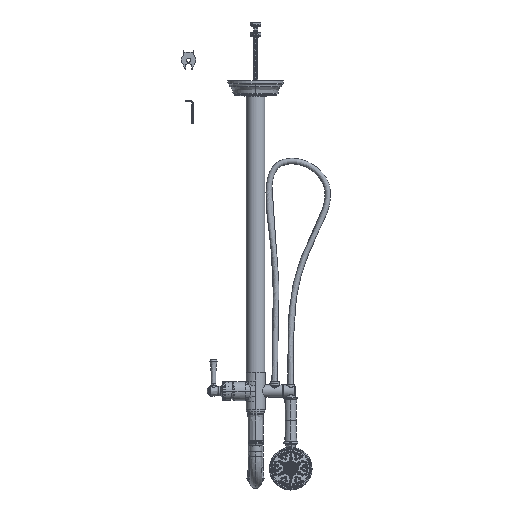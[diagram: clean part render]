
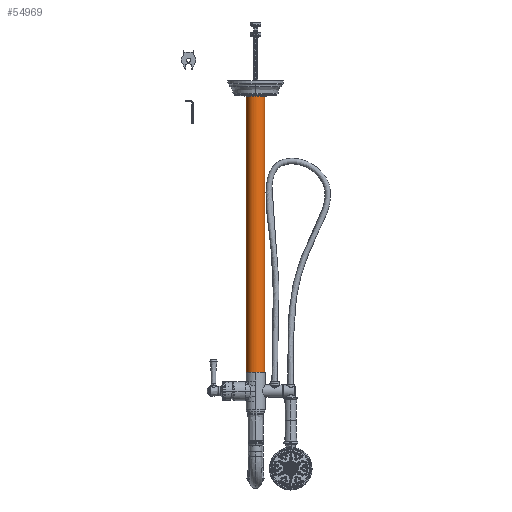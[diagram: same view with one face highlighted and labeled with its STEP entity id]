
A CAD part, left-side view. The second image highlights one B-rep face of the part: STEP entity #54969.
In plain terms, the highlighted cylindrical face has radius 22.5 mm (diameter 45 mm), a partial arc.
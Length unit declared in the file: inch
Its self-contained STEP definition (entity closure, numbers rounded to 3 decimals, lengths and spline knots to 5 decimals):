
#1822 = CARTESIAN_POINT ( 'NONE',  ( 0., 0.88583, 28.97638 ) ) ;
#3744 = VERTEX_POINT ( 'NONE', #18921 ) ;
#13867 = VERTEX_POINT ( 'NONE', #63771 ) ;
#14899 = ORIENTED_EDGE ( 'NONE', *, *, #106326, .T. ) ;
#17228 = DIRECTION ( 'NONE',  ( 0., 1., 0. ) ) ;
#18921 = CARTESIAN_POINT ( 'NONE',  ( 0., 0.88583, 1.77165 ) ) ;
#25589 = AXIS2_PLACEMENT_3D ( 'NONE', #37408, #64199, #17228 ) ;
#25591 = CYLINDRICAL_SURFACE ( 'NONE', #25589, 0.88583 ) ;
#25785 = ORIENTED_EDGE ( 'NONE', *, *, #26995, .T. ) ;
#26065 = CIRCLE ( 'NONE', #48821, 0.88583 ) ;
#26995 = EDGE_CURVE ( 'NONE', #53191, #81108, #26065, .T. ) ;
#27919 = FACE_OUTER_BOUND ( 'NONE', #53145, .T. ) ;
#28878 = ORIENTED_EDGE ( 'NONE', *, *, #46278, .T. ) ;
#33399 = CARTESIAN_POINT ( 'NONE',  ( 0., 0., 28.97638 ) ) ;
#37408 = CARTESIAN_POINT ( 'NONE',  ( 0., 0., 1.75197 ) ) ;
#39964 = DIRECTION ( 'NONE',  ( 0., 0., -1. ) ) ;
#46278 = EDGE_CURVE ( 'NONE', #13867, #53191, #110925, .T. ) ;
#48821 = AXIS2_PLACEMENT_3D ( 'NONE', #33399, #39964, #76279 ) ;
#53145 = EDGE_LOOP ( 'NONE', ( #14899, #28878, #25785, #57554 ) ) ;
#53191 = VERTEX_POINT ( 'NONE', #65663 ) ;
#54969 = ADVANCED_FACE ( 'NONE', ( #27919 ), #25591, .T. ) ;
#57554 = ORIENTED_EDGE ( 'NONE', *, *, #81567, .F. ) ;
#58029 = LINE ( 'NONE', #69882, #88185 ) ;
#62868 = AXIS2_PLACEMENT_3D ( 'NONE', #80663, #117634, #79487 ) ;
#63771 = CARTESIAN_POINT ( 'NONE',  ( 0., -0.88583, 1.77165 ) ) ;
#64199 = DIRECTION ( 'NONE',  ( 0., 0., 1. ) ) ;
#65663 = CARTESIAN_POINT ( 'NONE',  ( 0., -0.88583, 28.97638 ) ) ;
#68708 = DIRECTION ( 'NONE',  ( 0., 0., 1. ) ) ;
#69882 = CARTESIAN_POINT ( 'NONE',  ( 0., 0.88583, 1.75197 ) ) ;
#74677 = VECTOR ( 'NONE', #82875, 39.37008 ) ;
#76279 = DIRECTION ( 'NONE',  ( 0., 1., 0. ) ) ;
#79487 = DIRECTION ( 'NONE',  ( 0., 1., 0. ) ) ;
#80663 = CARTESIAN_POINT ( 'NONE',  ( 0., 0., 1.77165 ) ) ;
#81108 = VERTEX_POINT ( 'NONE', #1822 ) ;
#81567 = EDGE_CURVE ( 'NONE', #3744, #81108, #58029, .T. ) ;
#82875 = DIRECTION ( 'NONE',  ( 0., 0., 1. ) ) ;
#88185 = VECTOR ( 'NONE', #68708, 39.37008 ) ;
#95222 = CIRCLE ( 'NONE', #62868, 0.88583 ) ;
#103151 = CARTESIAN_POINT ( 'NONE',  ( 0., -0.88583, 1.75197 ) ) ;
#106326 = EDGE_CURVE ( 'NONE', #3744, #13867, #95222, .T. ) ;
#110925 = LINE ( 'NONE', #103151, #74677 ) ;
#117634 = DIRECTION ( 'NONE',  ( 0., 0., 1. ) ) ;
